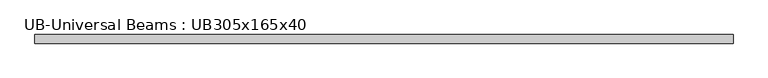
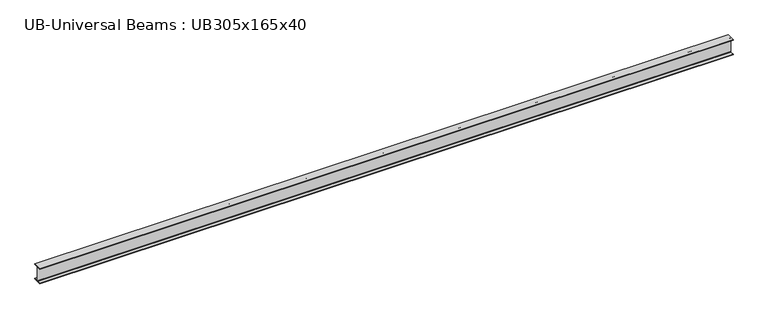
"""IFC4 building model written with IfcOpenShell, lengths in millimetres: beam geometry, UB-Universal Beams : UB305x165x40."""

from ifc_helpers import new_model, si_unit, point, frame, frame_2d, origin, place, context, project, spatial, polyline, circle_curve, trimmed, segment, composite_curve, outline, extrude, source, transform, mapped, element, save


def ub_universal_beams_ub305x165x40_53f3f6d7(model_context):
    return source(origin(), model_context, "Body", "SweptSolid", [
        extrude(outline(composite_curve([segment(polyline([(82.5, -141.5), (82.5, -151.7), (-82.5, -151.7), (-82.5, -141.5), (-11.9, -141.5)]), True, "CONTINUOUS"), segment(trimmed(circle_curve(frame_2d((-11.9, -132.6)), 8.9), [point((-11.9, -141.5))], [point((-3.0, -132.6))], True, "CARTESIAN"), True, "CONTINUOUS"), segment(polyline([(-3.0, -132.6), (-3.0, 132.6)]), True, "CONTINUOUS"), segment(trimmed(circle_curve(frame_2d((-11.9, 132.6)), 8.9), [point((-3.0, 132.6))], [point((-11.9, 141.5))], True, "CARTESIAN"), True, "CONTINUOUS"), segment(polyline([(-11.9, 141.5), (-82.5, 141.5), (-82.5, 151.7), (82.5, 151.7), (82.5, 141.5), (11.9, 141.5)]), True, "CONTINUOUS"), segment(trimmed(circle_curve(frame_2d((11.9, 132.6)), 8.9), [point((11.9, 141.5))], [point((3.0, 132.6))], True, "CARTESIAN"), True, "CONTINUOUS"), segment(polyline([(3.0, 132.6), (3.0, -132.6)]), True, "CONTINUOUS"), segment(trimmed(circle_curve(frame_2d((11.9, -132.6)), 8.9), [point((3.0, -132.6))], [point((11.9, -141.5))], True, "CARTESIAN"), True, "CONTINUOUS"), segment(polyline([(11.9, -141.5), (82.5, -141.5)]), True, "CONTINUOUS")], self_intersect=False)), frame((-6687.85, 0.0, 0.0), z_axis=(1.0, 0.0, 0.0), x_axis=(0.0, 1.0, 0.0)), (0.0, 0.0, 1.0), 13283.9),
    ])


if __name__ == "__main__":
    model = new_model("IFC4")
    model_context = context("Model", 3, world=origin())
    ifc_project = project(units=[si_unit("LENGTHUNIT", "METRE", prefix="MILLI")], contexts=[model_context])
    site = spatial("IfcSite", under=ifc_project)
    building = spatial("IfcBuilding", under=site)
    placement = place(None, origin())
    ub_universal_beams_ub305x165x40_shape = ub_universal_beams_ub305x165x40_53f3f6d7(model_context)
    element("IfcBeam", 1, ObjectType="UB-Universal Beams : UB305x165x40", at=placement, inside=building, context=model_context, shape_type="MappedRepresentation", body=[
        mapped(ub_universal_beams_ub305x165x40_shape, transform((0.0, 0.0, 0.0), x_axis=(1.0, 0.0, 0.0), y_axis=(0.0, 1.0, 0.0), z_axis=(0.0, 0.0, 1.0))),
    ])
    save(model, "model.ifc")
